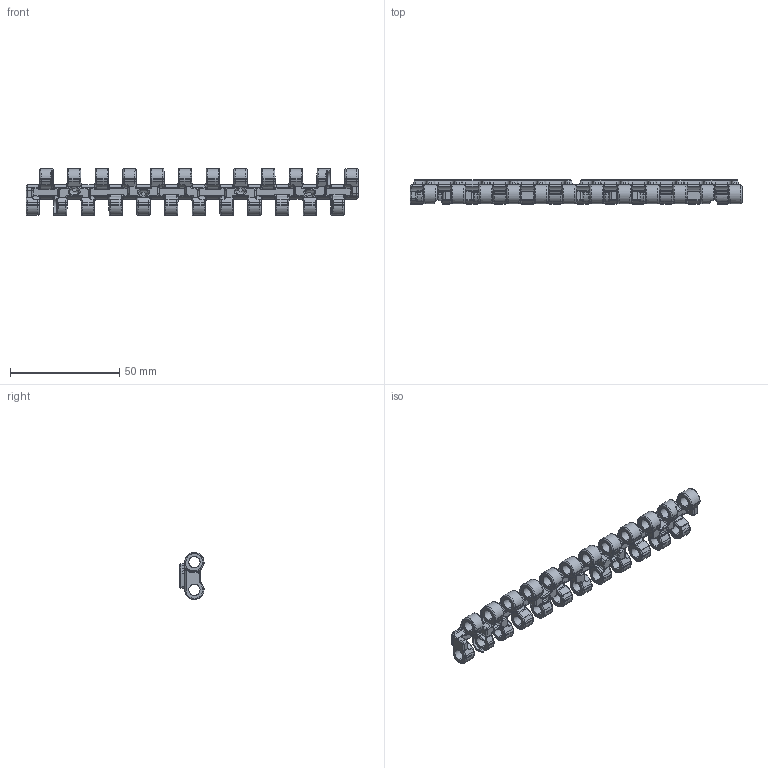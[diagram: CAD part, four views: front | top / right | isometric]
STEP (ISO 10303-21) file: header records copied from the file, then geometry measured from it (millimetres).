
FILE_DESCRIPTION((''),'2;1');
FILE_NAME('UNI_M-QNB_RUBBER_TOP_K600_ASM','2009-08-27T',('jas'),(''),'PRO/ENGINEER BY PARAMETRIC TECHNOLOGY CORPORATION, 2008490','PRO/ENGINEER BY PARAMETRIC TECHNOLOGY CORPORATION, 2008490','');
FILE_SCHEMA(('AUTOMOTIVE_DESIGN { 1 0 10303 214 1 1 1 1 }'));
Products named in the file (7): P846_9; MANIFOLD_SOLID_BREP_95658; MANIFOLD_SOLID_BREP_103783; K63-GUMMI_29_ASM; K63_TEST_20; K63_ASM_36_ASM; UNI_M-QNB_RUBBER_TOP_K600_ASM
Assembly tree (6 placements, depth 4):
  UNI_M-QNB_RUBBER_TOP_K600_ASM
    K63_ASM_36_ASM
      P846_9
      K63-GUMMI_29_ASM
        MANIFOLD_SOLID_BREP_95658
        MANIFOLD_SOLID_BREP_103783
      K63_TEST_20
Bounding box: 152.04 x 11 x 21.5 mm (x, y, z)
Volume: 22846.9 mm3; surface area: 23743.9 mm2
Topology: 4 solids, 4 shells, 3510 faces, 8484 edges, 4876 vertices
Faces by surface type: cylinder 1484, bspline 768, plane 578, torus 484, sphere 108, cone 88
Entity records: 169649 total; most frequent: CARTESIAN_POINT 94977, ORIENTED_EDGE 16752, DIRECTION 13996, EDGE_CURVE 8376, AXIS2_PLACEMENT_3D 5430, VERTEX_POINT 4876, EDGE_LOOP 3608, FACE_OUTER_BOUND 3510
